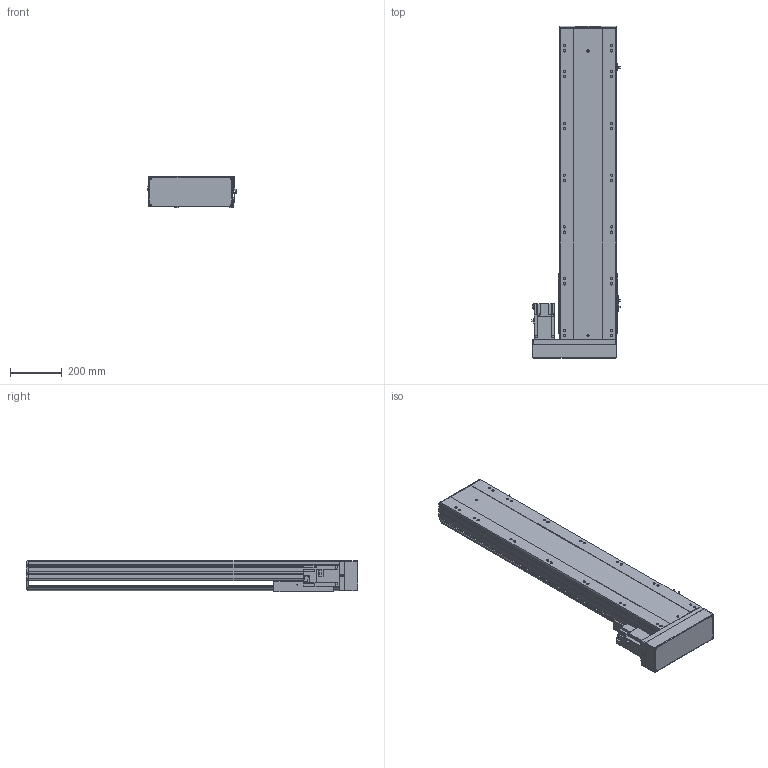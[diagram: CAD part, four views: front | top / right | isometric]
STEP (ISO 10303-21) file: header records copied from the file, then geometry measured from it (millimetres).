
FILE_DESCRIPTION (( 'STEP AP203' ), '1' );
FILE_NAME ('18.STEP', '2020-11-23T02:11:16', ( '' ), ( '' ), 'SwSTEP 2.0', 'SolidWorks 2016', '' );
FILE_SCHEMA (( 'CONFIG_CONTROL_DESIGN' ));
Length unit declared in the file: millimetre
Products named in the file (7): 18; BTH22-BL-T75; BTH22-BL-菁釱; BTH22-BL-04; BTH22-BL-01; BTH22-BL-02; BTH22-BL-HZ
Assembly tree (8 placements, depth 2):
  18
    BTH22-BL-菁釱
    BTH22-BL-01
    BTH22-BL-02
    BTH22-BL-04  x3
    BTH22-BL-HZ
    BTH22-BL-T75
Bounding box: 340 x 1282 x 122.7 mm (x, y, z)
Volume: 16649803.4 mm3; surface area: 2195172.8 mm2
Topology: 11 solids, 11 shells, 1042 faces, 2924 edges, 1903 vertices
Faces by surface type: plane 565, cylinder 427, cone 42, bspline 8
Entity records: 31325 total; most frequent: CARTESIAN_POINT 6440, ORIENTED_EDGE 5084, DIRECTION 5020, EDGE_CURVE 2542, AXIS2_PLACEMENT_3D 1691, VERTEX_POINT 1671, VECTOR 1638, LINE 1638
